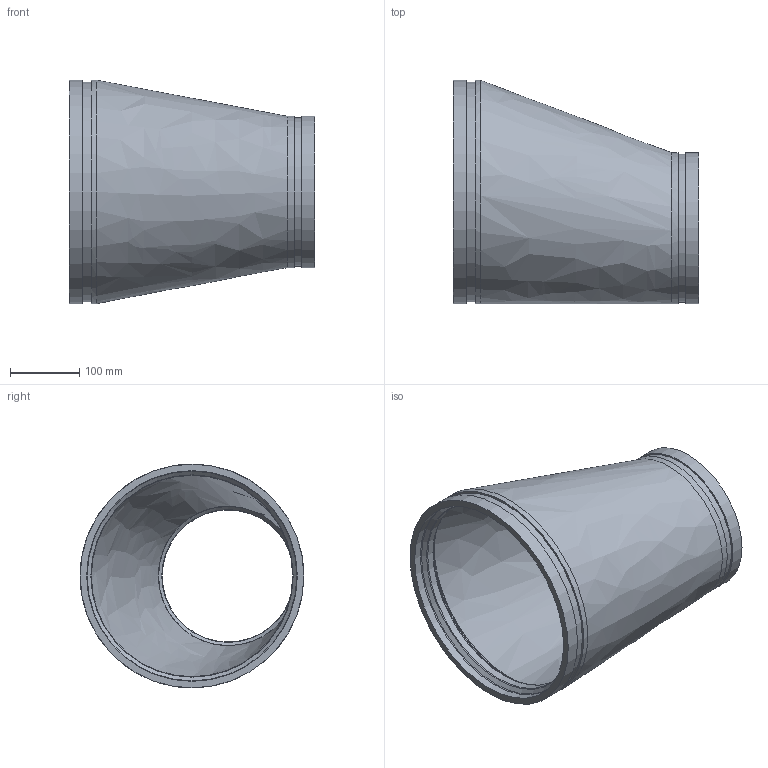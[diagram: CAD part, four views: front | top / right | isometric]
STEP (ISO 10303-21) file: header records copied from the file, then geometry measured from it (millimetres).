
FILE_DESCRIPTION(/* description */ ('VIC REDUCER ECCENTRIC No 451H-SS','CAx-IF Rec.Pracs.---Representation and Presentation of Product Manufacturing Information (PMI)---4.0---2014-10-13'),/* implementation_level */ '2;1');
FILE_NAME(/* name */ 'C:\Users\kkamble\AppData\Roaming\Autodesk\ApplicationPlugins\Back Up\Victaulic_SS-OGS_Reducer Eccentric_Sched 40S_No 451H SS (OGS)\Victaulic_SS-OGS_Reducer Eccentric_Sched 40S_No 451H SS (OGS)_12.0x08.0 (300x200).stp',/* time_stamp */ '2020-08-25T18:06:16+06:00',/* author */ ('CORINNE GRAY'),/* organization */ ('Victaulic'),/* preprocessor_version */ 'ST-DEVELOPER v17.2',/* originating_system */ 'Autodesk Inventor 2019',/* authorisation */ '');
FILE_SCHEMA (('AP242_MANAGED_MODEL_BASED_3D_ENGINEERING_MIM_LF { 1 0 10303 442 1 1 4 }'));
Length unit declared in the file: inch
Products named in the file (1): 451H SS-12.0x08.0
Bounding box: 355.6 x 323.85 x 323.85 mm (x, y, z)
Volume: 2749296.6 mm3; surface area: 628023.1 mm2
Topology: 1 solids, 1 shells, 32 faces, 111 edges, 85 vertices
Faces by surface type: cylinder 12, torus 8, plane 6, cone 4, bspline 2
Full cylindrical faces by diameter (mm): 190.983 x1, 202.692 x2, 214.401 x1, 219.075 x2, 291.313 x1, 304.8 x2, 318.287 x1, 323.85 x2
Entity records: 1504 total; most frequent: DIRECTION 290, CARTESIAN_POINT 282, ORIENTED_EDGE 222, AXIS2_PLACEMENT_3D 137, EDGE_CURVE 111, CIRCLE 93, VERTEX_POINT 85, EDGE_LOOP 38
